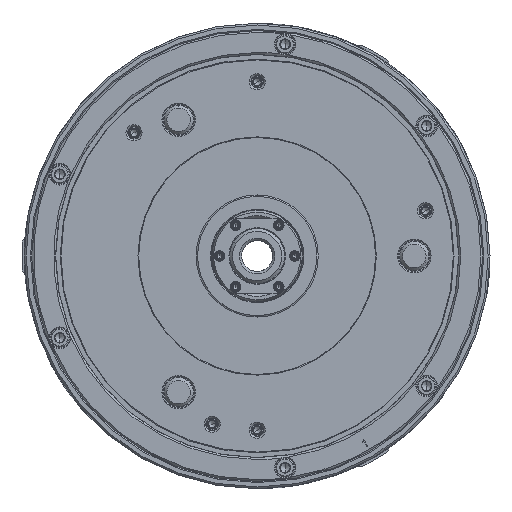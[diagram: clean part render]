
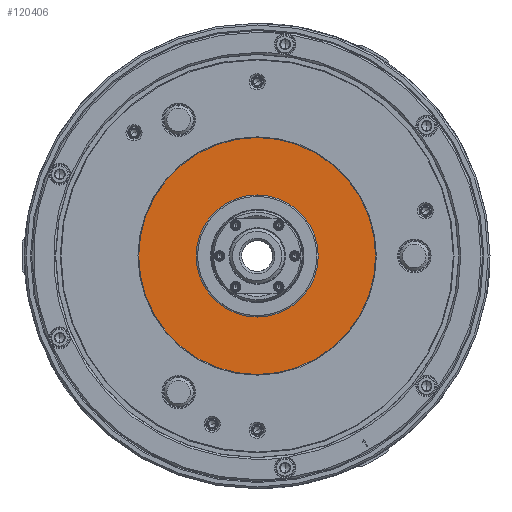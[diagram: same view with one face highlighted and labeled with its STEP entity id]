
A CAD part, left-side view. The second image highlights one B-rep face of the part: STEP entity #120406.
In plain terms, the highlighted planar face has unit normal (-1, 0, 0) as drawn and (0, 0, -1) by its records, which use the part's own axes.
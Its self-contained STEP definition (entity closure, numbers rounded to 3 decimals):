
#930 = EDGE_CURVE ( 'NONE', #163977, #135645, #20244, .T. ) ;
#1507 = ORIENTED_EDGE ( 'NONE', *, *, #166610, .T. ) ;
#3583 = DIRECTION ( 'NONE',  ( 0., 0., 1. ) ) ;
#3629 = DIRECTION ( 'NONE',  ( -1., 0., 0. ) ) ;
#5631 = DIRECTION ( 'NONE',  ( -1., 0., 0. ) ) ;
#9727 = AXIS2_PLACEMENT_3D ( 'NONE', #123295, #79590, #96509 ) ;
#11684 = AXIS2_PLACEMENT_3D ( 'NONE', #22574, #158282, #5631 ) ;
#13060 = VERTEX_POINT ( 'NONE', #24993 ) ;
#20244 = CIRCLE ( 'NONE', #11684, 33.3 ) ;
#22574 = CARTESIAN_POINT ( 'NONE',  ( 0., 0., -126.8 ) ) ;
#24278 = ORIENTED_EDGE ( 'NONE', *, *, #930, .F. ) ;
#24993 = CARTESIAN_POINT ( 'NONE',  ( -64.616, 0., -126.8 ) ) ;
#32191 = DIRECTION ( 'NONE',  ( 0., 1., 0. ) ) ;
#34386 = AXIS2_PLACEMENT_3D ( 'NONE', #125977, #3583, #32191 ) ;
#46245 = ORIENTED_EDGE ( 'NONE', *, *, #103997, .T. ) ;
#48521 = VERTEX_POINT ( 'NONE', #76069 ) ;
#55510 = DIRECTION ( 'NONE',  ( 0., 0., -1. ) ) ;
#64340 = CIRCLE ( 'NONE', #164062, 64.616 ) ;
#71520 = PLANE ( 'NONE',  #34386 ) ;
#72023 = DIRECTION ( 'NONE',  ( -1., 0., 0. ) ) ;
#76069 = CARTESIAN_POINT ( 'NONE',  ( 64.616, 0., -126.8 ) ) ;
#79590 = DIRECTION ( 'NONE',  ( 0., 0., -1. ) ) ;
#82348 = CARTESIAN_POINT ( 'NONE',  ( 0., 0., -126.8 ) ) ;
#90623 = CARTESIAN_POINT ( 'NONE',  ( -33.3, 0., -126.8 ) ) ;
#96509 = DIRECTION ( 'NONE',  ( -1., 0., 0. ) ) ;
#97859 = CIRCLE ( 'NONE', #112128, 64.616 ) ;
#97962 = CARTESIAN_POINT ( 'NONE',  ( 0., 0., -126.8 ) ) ;
#103997 = EDGE_CURVE ( 'NONE', #48521, #13060, #97859, .T. ) ;
#109652 = CIRCLE ( 'NONE', #9727, 33.3 ) ;
#112128 = AXIS2_PLACEMENT_3D ( 'NONE', #97962, #126467, #72023 ) ;
#114368 = FACE_BOUND ( 'NONE', #151037, .T. ) ;
#120406 = ADVANCED_FACE ( 'NONE', ( #114368, #153587 ), #71520, .F. ) ;
#123295 = CARTESIAN_POINT ( 'NONE',  ( 0., 0., -126.8 ) ) ;
#125977 = CARTESIAN_POINT ( 'NONE',  ( 0., -65., -126.8 ) ) ;
#126467 = DIRECTION ( 'NONE',  ( 0., 0., -1. ) ) ;
#131751 = EDGE_LOOP ( 'NONE', ( #1507, #46245 ) ) ;
#135645 = VERTEX_POINT ( 'NONE', #90623 ) ;
#151037 = EDGE_LOOP ( 'NONE', ( #172791, #24278 ) ) ;
#153587 = FACE_OUTER_BOUND ( 'NONE', #131751, .T. ) ;
#158282 = DIRECTION ( 'NONE',  ( 0., 0., -1. ) ) ;
#163977 = VERTEX_POINT ( 'NONE', #170621 ) ;
#164062 = AXIS2_PLACEMENT_3D ( 'NONE', #82348, #55510, #3629 ) ;
#164252 = EDGE_CURVE ( 'NONE', #135645, #163977, #109652, .T. ) ;
#166610 = EDGE_CURVE ( 'NONE', #13060, #48521, #64340, .T. ) ;
#170621 = CARTESIAN_POINT ( 'NONE',  ( 33.3, 0., -126.8 ) ) ;
#172791 = ORIENTED_EDGE ( 'NONE', *, *, #164252, .F. ) ;
